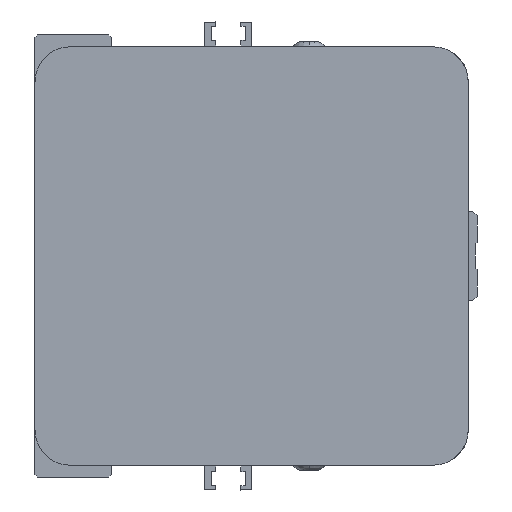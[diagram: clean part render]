
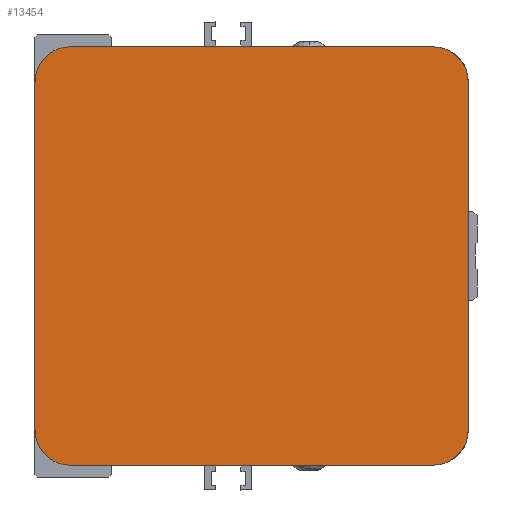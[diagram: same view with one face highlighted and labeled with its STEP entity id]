
A CAD part, left-side view. The second image highlights one B-rep face of the part: STEP entity #13454.
In plain terms, the highlighted planar face has unit normal (-1, 0, 0) as drawn and (0, 0, -1) by its records, which use the part's own axes.
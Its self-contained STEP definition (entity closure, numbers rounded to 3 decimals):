
#964=CIRCLE('',#14397,6.);
#965=CIRCLE('',#14402,6.);
#973=CIRCLE('',#14413,6.);
#974=CIRCLE('',#14415,6.);
#1626=FACE_OUTER_BOUND('',#2439,.T.);
#2439=EDGE_LOOP('',(#9366,#9367,#9368,#9369,#9370,#9371,#9372,#9373));
#3517=LINE('',#18815,#4769);
#3522=LINE('',#18826,#4774);
#3529=LINE('',#18841,#4781);
#3533=LINE('',#18926,#4785);
#4769=VECTOR('',#15567,61.5);
#4774=VECTOR('',#15578,59.);
#4781=VECTOR('',#15595,61.5);
#4785=VECTOR('',#15621,59.);
#6015=VERTEX_POINT('',#18811);
#6017=VERTEX_POINT('',#18814);
#6018=VERTEX_POINT('',#18819);
#6020=VERTEX_POINT('',#18825);
#6022=VERTEX_POINT('',#18836);
#6023=VERTEX_POINT('',#18840);
#6032=VERTEX_POINT('',#18921);
#6033=VERTEX_POINT('',#18925);
#7367=EDGE_CURVE('',#6017,#6015,#3517,.T.);
#7370=EDGE_CURVE('',#6017,#6018,#964,.T.);
#7373=EDGE_CURVE('',#6020,#6018,#3522,.T.);
#7379=EDGE_CURVE('',#6020,#6022,#965,.T.);
#7381=EDGE_CURVE('',#6023,#6022,#3529,.T.);
#7394=EDGE_CURVE('',#6032,#6015,#973,.T.);
#7395=EDGE_CURVE('',#6032,#6033,#3533,.T.);
#7396=EDGE_CURVE('',#6023,#6033,#974,.T.);
#9366=ORIENTED_EDGE('',*,*,#7379,.F.);
#9367=ORIENTED_EDGE('',*,*,#7373,.T.);
#9368=ORIENTED_EDGE('',*,*,#7370,.F.);
#9369=ORIENTED_EDGE('',*,*,#7367,.T.);
#9370=ORIENTED_EDGE('',*,*,#7394,.F.);
#9371=ORIENTED_EDGE('',*,*,#7395,.T.);
#9372=ORIENTED_EDGE('',*,*,#7396,.F.);
#9373=ORIENTED_EDGE('',*,*,#7381,.T.);
#12952=PLANE('',#14414);
#13454=ADVANCED_FACE('',(#1626),#12952,.F.);
#14397=AXIS2_PLACEMENT_3D('',#18820,#15572,#15573);
#14402=AXIS2_PLACEMENT_3D('',#18837,#15590,#15591);
#14413=AXIS2_PLACEMENT_3D('',#18923,#15617,#15618);
#14414=AXIS2_PLACEMENT_3D('',#18924,#15619,#15620);
#14415=AXIS2_PLACEMENT_3D('',#18927,#15622,#15623);
#15567=DIRECTION('',(0.,-1.,0.));
#15572=DIRECTION('center_axis',(0.,0.,
1.));
#15573=DIRECTION('ref_axis',(0.707,0.707,0.));
#15578=DIRECTION('',(1.,0.,0.));
#15590=DIRECTION('center_axis',(0.,0.,
1.));
#15591=DIRECTION('ref_axis',(-0.707,0.707,0.));
#15595=DIRECTION('',(0.,1.,0.));
#15617=DIRECTION('center_axis',(0.,0.,
1.));
#15618=DIRECTION('ref_axis',(0.707,-0.707,0.));
#15619=DIRECTION('center_axis',(0.,0.,
1.));
#15620=DIRECTION('ref_axis',(1.,0.,0.));
#15621=DIRECTION('',(-1.,0.,0.));
#15622=DIRECTION('center_axis',(0.,0.,
1.));
#15623=DIRECTION('ref_axis',(-0.707,-0.707,0.));
#18811=CARTESIAN_POINT('',(75.2,7.5,-357.));
#18814=CARTESIAN_POINT('',(75.2,69.,-357.));
#18815=CARTESIAN_POINT('',(75.2,69.,-357.));
#18819=CARTESIAN_POINT('',(69.2,75.,-357.));
#18820=CARTESIAN_POINT('Origin',(69.2,69.,-357.));
#18825=CARTESIAN_POINT('',(10.2,75.,-357.));
#18826=CARTESIAN_POINT('',(10.2,75.,-357.));
#18836=CARTESIAN_POINT('',(4.2,69.,-357.));
#18837=CARTESIAN_POINT('Origin',(10.2,69.,-357.));
#18840=CARTESIAN_POINT('',(4.2,7.5,-357.));
#18841=CARTESIAN_POINT('',(4.2,7.5,-357.));
#18921=CARTESIAN_POINT('',(69.2,1.5,-357.));
#18923=CARTESIAN_POINT('Origin',(69.2,7.5,-357.));
#18924=CARTESIAN_POINT('Origin',(39.7,38.25,-357.));
#18925=CARTESIAN_POINT('',(10.2,1.5,-357.));
#18926=CARTESIAN_POINT('',(69.2,1.5,-357.));
#18927=CARTESIAN_POINT('Origin',(10.2,7.5,-357.));
